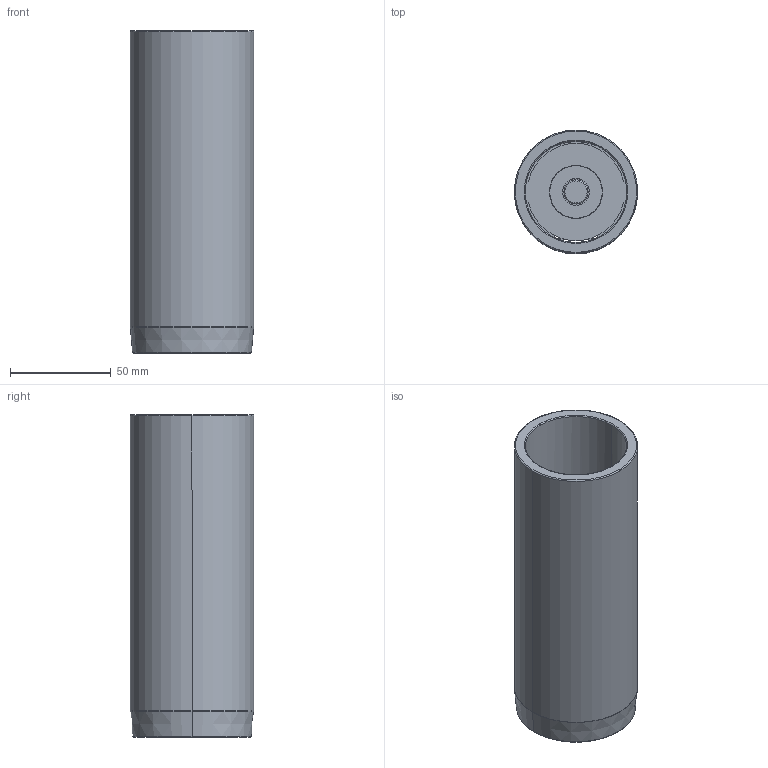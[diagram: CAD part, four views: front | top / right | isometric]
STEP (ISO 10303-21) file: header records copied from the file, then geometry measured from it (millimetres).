
FILE_DESCRIPTION((''),'2;1');
FILE_NAME('C12_050_160.stp','2009-01-28T14:17:45',(''),(''),'Mechanical Desktop 2009','Mechanical Desktop 2009',', , ');
FILE_SCHEMA(('CONFIG_CONTROL_DESIGN'));
Length unit declared in the file: millimetre
Products named in the file (2): Product; blmdl1
Assembly tree (1 placements, depth 2):
  Product
    blmdl1
Bounding box: 61.25 x 61.25 x 160 mm (x, y, z)
Volume: 158300.2 mm3; surface area: 67851 mm2
Topology: 5 solids, 5 shells, 79 faces, 200 edges, 134 vertices
Faces by surface type: cylinder 34, plane 29, torus 10, cone 6
Entity records: 2585 total; most frequent: DIRECTION 480, CARTESIAN_POINT 435, ORIENTED_EDGE 400, AXIS2_PLACEMENT_3D 203, EDGE_CURVE 200, VERTEX_POINT 134, CIRCLE 122, EDGE_LOOP 92
